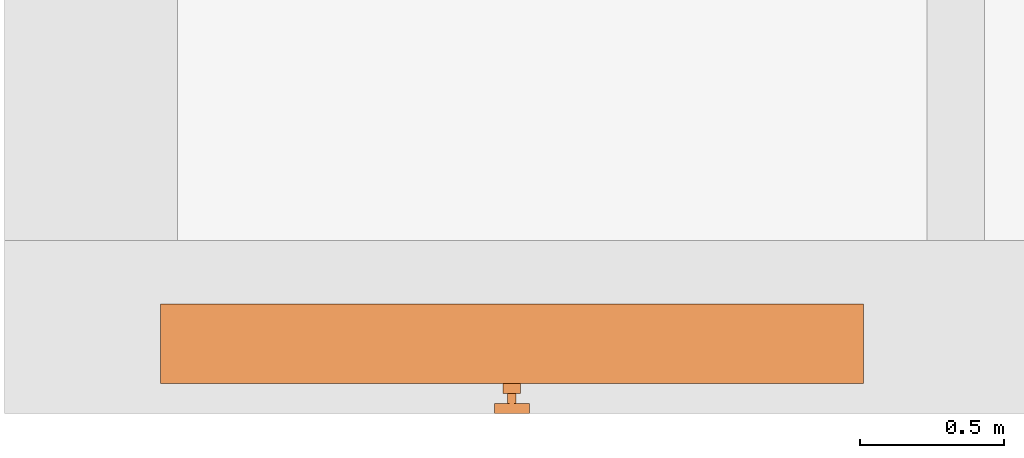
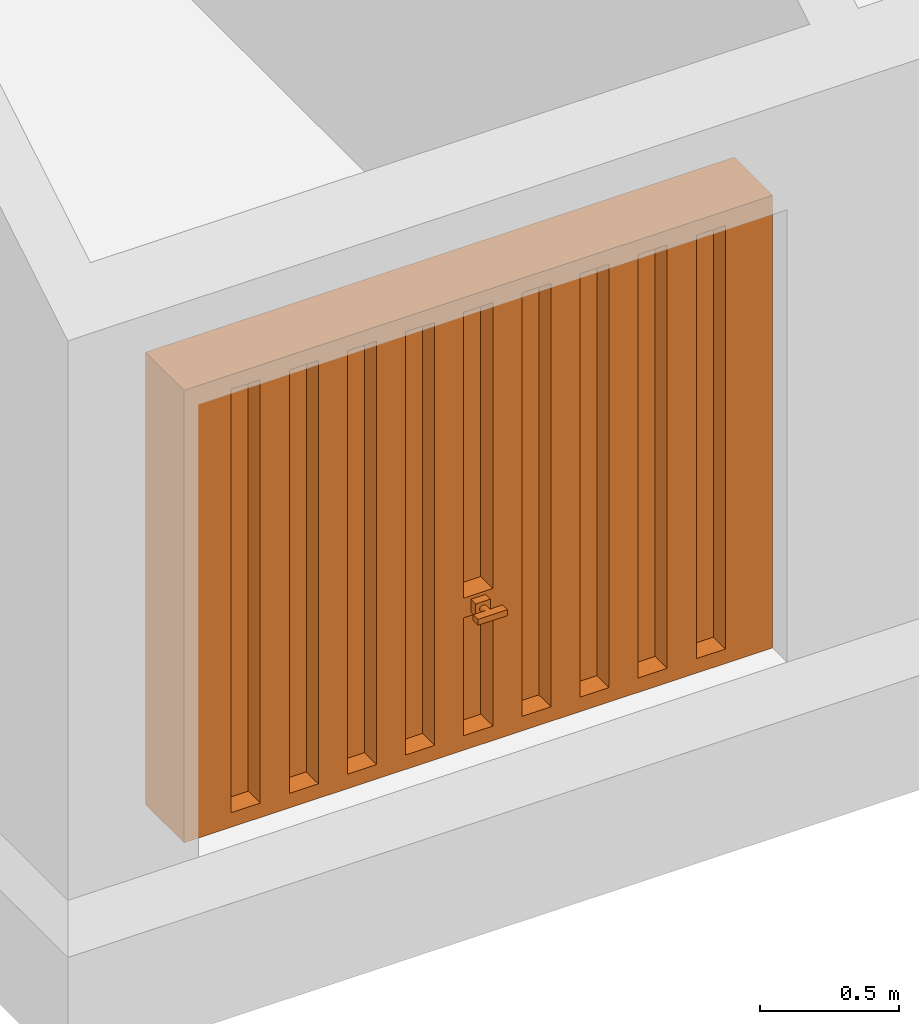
# One storey, part 4 of 6: 1 proxy.
"""IFC2X3 building model written with IfcOpenShell, lengths in millimetres."""

from ifc_helpers import new_model, entity, si_unit, converted_unit, direction, frame, origin, origin_with_axes, place, context, project, spatial, faceted_brep, element, save


model = new_model("IFC2X3")

# Units and contexts
model_context = context("Model", 3, precision=1e-05, world=origin(), true_north=direction((0.0, 1.0, 0.0)))
ifc_project = project(units=[si_unit("LENGTHUNIT", "METRE", prefix="MILLI"), si_unit("AREAUNIT", "SQUARE_METRE"), si_unit("VOLUMEUNIT", "CUBIC_METRE"), converted_unit("PLANEANGLEUNIT", "DEGREE", entity("IfcPlaneAngleMeasure", 0.01745), si_unit("PLANEANGLEUNIT", "RADIAN"), dimensions=[0, 0, 0, 0, 0, 0, 0]), si_unit("SOLIDANGLEUNIT", "STERADIAN"), si_unit("MASSUNIT", "GRAM"), si_unit("TIMEUNIT", "SECOND"), si_unit("THERMODYNAMICTEMPERATUREUNIT", "DEGREE_CELSIUS"), si_unit("LUMINOUSINTENSITYUNIT", "LUMEN")], contexts=[model_context])

# Site, building, storey
site_placement = place(None, origin_with_axes())
site = spatial("IfcSite", under=ifc_project, at=site_placement, Name="Default Site", CompositionType="ELEMENT")
building_placement = place(site_placement, origin_with_axes())
building = spatial("IfcBuilding", under=site, at=building_placement, Name="Default Building", CompositionType="ELEMENT")
storey_placement = place(building_placement, origin_with_axes())
storey = spatial("IfcBuildingStorey", under=building, at=storey_placement, Name="soubassement", CompositionType="ELEMENT", Elevation=0.0)

# Proxy
proxy_placement = place(storey_placement, frame((-3044.264854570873, -20939.03786811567, 7.334057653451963e-06), z_axis=(0.0, 0.0, 1.0), x_axis=(1.0, 0.0, 0.0)))
element("IfcBuildingElementProxy", 1, at=proxy_placement, inside=storey, context=model_context, shape_type="Brep", body=[
    faceted_brep([(1158.544757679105, 259.0909082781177, 579.8760057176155), (1158.544757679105, 345.4545443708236, 579.8760057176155), (1278.917301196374, 345.4545443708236, 579.8760057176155), (1278.929027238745, 259.0909082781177, 579.8760057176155), (1158.544757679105, 345.4545443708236, 63.51268776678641), (1158.544757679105, 259.0909082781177, 63.51268776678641), (1278.940753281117, 259.0909082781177, 63.51268776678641), (1158.544757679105, 345.4545443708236, 665.936555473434), (1158.544757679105, 259.0909082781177, 665.936555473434), (1278.891506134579, 259.0909082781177, 665.936555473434), (1278.891506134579, 345.4545443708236, 665.936555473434), (1278.891506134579, 155.4545449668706, 579.8760029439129), (1278.891506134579, 69.09090887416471, 579.8760029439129), (1158.495510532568, 69.09090887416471, 579.8760029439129), (1158.495510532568, 155.4545449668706, 579.8760029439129), (1278.940753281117, 345.4545443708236, 63.51268776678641), (1278.940753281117, 259.0909082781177, 1917.687292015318), (1278.940753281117, 259.0909082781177, 665.936555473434), (1158.544757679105, 259.0909082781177, 1917.687292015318), (195.3767928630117, 345.4545443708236, 63.51268776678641), (195.3767928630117, 345.4545443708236, 1917.687292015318), (195.3767928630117, 259.0909082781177, 1917.687292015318), (195.3767928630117, 259.0909082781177, 63.51268776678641), (315.7727884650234, 345.4545443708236, 63.51268776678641), (315.7727884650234, 259.0909082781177, 63.51268776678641), (315.7727884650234, 345.4545443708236, 1917.687292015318), (315.7727884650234, 259.0909082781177, 579.8760057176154), (315.7727884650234, 259.0909082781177, 1917.687292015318), (436.1687840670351, 345.4545443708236, 63.51268776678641), (436.1687840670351, 345.4545443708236, 1917.687292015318), (436.1687840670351, 259.0909082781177, 1917.687292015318), (436.1687840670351, 259.0909082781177, 579.8760057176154), (436.1687840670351, 259.0909082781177, 63.51268776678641), (556.5647796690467, 345.4545443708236, 63.51268776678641), (556.5647796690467, 259.0909082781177, 63.51268776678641), (556.5647796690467, 345.4545443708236, 1917.687292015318), (556.5647796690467, 259.0909082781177, 579.8760057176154), (556.5647796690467, 259.0909082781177, 1917.687292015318), (676.9607752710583, 345.4545443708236, 63.51268776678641), (676.9607752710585, 345.4545443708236, 1917.687292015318), (676.9607752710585, 259.0909082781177, 1917.687292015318), (676.9607752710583, 259.0909082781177, 579.8760057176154), (676.9607752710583, 259.0909082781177, 63.51268776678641), (797.3567708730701, 345.4545443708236, 63.51268776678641), (797.3567708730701, 259.0909082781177, 63.51268776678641), (797.3567708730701, 345.4545443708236, 1917.687292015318), (797.3567708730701, 259.0909082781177, 579.8760057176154), (797.3567708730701, 259.0909082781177, 1917.687292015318), (917.7527664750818, 345.4545443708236, 63.51268776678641), (917.7527664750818, 345.4545443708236, 1917.687292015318), (917.7527664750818, 259.0909082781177, 1917.687292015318), (917.7527664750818, 259.0909082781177, 579.8760057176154), (917.7527664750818, 259.0909082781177, 63.51268776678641), (1038.148762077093, 345.4545443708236, 63.51268776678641), (1038.148762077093, 259.0909082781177, 63.51268776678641), (1038.148762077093, 345.4545443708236, 1917.687292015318), (1038.148762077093, 259.0909082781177, 579.8760057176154), (1038.148762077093, 259.0909082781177, 1917.687292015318), (1158.544757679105, 345.4545443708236, 1917.687292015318), (1278.940753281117, 345.4545443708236, 1917.687292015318), (1399.336748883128, 345.4545443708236, 63.51268776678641), (1399.336748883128, 345.4545443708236, 1917.687292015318), (1399.336748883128, 259.0909082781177, 1917.687292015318), (1399.336748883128, 259.0909082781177, 665.936555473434), (1399.336748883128, 259.0909082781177, 63.51268776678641), (1519.73274448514, 345.4545443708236, 63.51268776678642), (1519.73274448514, 259.0909082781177, 63.51268776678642), (1519.73274448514, 345.4545443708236, 1917.687292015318), (1519.73274448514, 259.0909082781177, 1917.687292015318), (1640.128740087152, 345.4545443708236, 63.51268776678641), (1640.128740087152, 345.4545443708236, 1917.687292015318), (1640.128740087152, 259.0909082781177, 1917.687292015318), (1640.128740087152, 259.0909082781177, 63.51268776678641), (1760.524735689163, 345.4545443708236, 63.51268776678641), (1760.524735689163, 259.0909082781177, 63.51268776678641), (1760.524735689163, 345.4545443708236, 1917.687292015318), (1760.524735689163, 259.0909082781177, 1917.687292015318), (1880.920731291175, 345.4545443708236, 63.51268776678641), (1880.920731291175, 345.4545443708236, 1917.687292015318), (1880.920731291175, 259.0909082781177, 1917.687292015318), (1880.920731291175, 259.0909082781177, 63.51268776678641), (2001.316726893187, 345.4545443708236, 63.51268776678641), (2001.316726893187, 259.0909082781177, 63.51268776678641), (2001.316726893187, 345.4545443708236, 1917.687292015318), (2001.316726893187, 259.0909082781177, 1917.687292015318), (2121.712722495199, 345.4545443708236, 63.51268776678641), (2121.712722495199, 345.4545443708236, 1917.687292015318), (2121.712722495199, 259.0909082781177, 1917.687292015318), (2121.712722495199, 259.0909082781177, 63.51268776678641), (2242.10871809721, 345.4545443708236, 63.51268776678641), (2242.10871809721, 259.0909082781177, 63.51268776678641), (2242.10871809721, 345.4545443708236, 1917.687292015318), (2242.10871809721, 259.0909082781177, 1917.687292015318), (2363.41911366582, 345.4545443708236, 63.51268776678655), (2363.41911366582, 345.4545443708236, 1917.687292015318), (74.98079726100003, 345.4545443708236, 1917.687292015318), (74.98079726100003, 345.4545443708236, 63.51268776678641), (1278.891506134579, 69.09090887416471, 594.9365996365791), (1278.891506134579, 69.09090887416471, 665.936555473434), (1158.495510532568, 69.09090887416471, 665.936555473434), (1249.173507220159, 69.09090887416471, 650.8759587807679), (1249.173507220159, 69.09090887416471, 594.9365996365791), (1188.213509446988, 69.09090887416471, 594.9365996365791), (1188.213509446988, 69.09090887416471, 650.8759587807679), (1211.186911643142, -34.54545443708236, 624.6100296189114), (1210.922107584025, -34.54545443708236, 622.9062792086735), (1211.186911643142, -34.54545443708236, 621.2025287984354), (1211.963277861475, -34.54545443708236, 619.6148861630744), (1213.198298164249, -34.54545443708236, 618.2515465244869), (1214.807807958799, -34.54545443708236, 617.205419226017), (1216.682121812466, -34.54545443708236, 616.5477961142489), (1218.693508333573, -34.54545443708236, 616.3234931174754), (1220.704894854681, -34.54545443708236, 616.5477961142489), (1222.579208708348, -34.54545443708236, 617.205419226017), (1224.188718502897, -34.54545443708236, 618.2515465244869), (1225.423738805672, -34.54545443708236, 619.6148861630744), (1226.200105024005, -34.54545443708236, 621.2025287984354), (1226.464909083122, -34.54545443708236, 622.9062792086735), (1226.200105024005, -34.54545443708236, 624.6100296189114), (1225.423738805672, -34.54545443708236, 626.1976722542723), (1224.188718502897, -34.54545443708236, 627.56101189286), (1222.579208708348, -34.54545443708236, 628.6071391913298), (1220.704894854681, -34.54545443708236, 629.2647623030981), (1218.693508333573, -34.54545443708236, 629.4890652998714), (1216.682121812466, -34.54545443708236, 629.2647623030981), (1214.807807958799, -34.54545443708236, 628.6071391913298), (1213.198298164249, -34.54545443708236, 627.56101189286), (1211.963277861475, -34.54545443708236, 626.1976722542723), (1214.749106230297, 0.0, 610.4370626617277), (1214.749106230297, 34.54545443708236, 610.4370626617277), (1218.693508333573, 34.54545443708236, 609.9971963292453), (1218.693508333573, 0.0, 609.9971963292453), (1211.073508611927, 0.0, 611.7266854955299), (1211.073508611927, 34.54545443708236, 611.7266854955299), (1207.917201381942, 0.0, 613.7781791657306), (1207.917201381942, 34.54545443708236, 613.7781791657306), (1205.495281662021, 0.0, 616.4517377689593), (1205.495281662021, 34.54545443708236, 616.4517377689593), (1203.972799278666, 0.0, 619.5651627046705), (1203.972799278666, 34.54545443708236, 619.5651627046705), (1203.453508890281, 0.0, 622.9062792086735), (1203.453508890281, 34.54545443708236, 622.9062792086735), (1203.972799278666, 0.0, 626.2473957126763), (1203.972799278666, 34.54545443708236, 626.2473957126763), (1205.495281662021, 0.0, 629.3608206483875), (1205.495281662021, 34.54545443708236, 629.3608206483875), (1207.917201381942, 0.0, 632.0343792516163), (1207.917201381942, 34.54545443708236, 632.0343792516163), (1218.693508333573, 0.0, 635.8153620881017), (1218.693508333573, 34.54545443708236, 635.8153620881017), (1214.749106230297, 34.54545443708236, 635.3754957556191), (1214.749106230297, 0.0, 635.3754957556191), (1211.073508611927, 34.54545443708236, 634.085872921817), (1211.073508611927, 0.0, 634.085872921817), (1207.917201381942, -34.54545443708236, 632.0343792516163), (1211.073508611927, -34.54545443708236, 634.085872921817), (1222.185954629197, 0.0, 635.4258963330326), (1222.637910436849, 0.0, 635.3754957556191), (1226.31350805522, 0.0, 634.0858729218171), (1229.469815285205, 0.0, 632.0343792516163), (1231.891735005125, 0.0, 629.3608206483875), (1233.414217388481, 0.0, 626.2473957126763), (1233.933507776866, 0.0, 622.9062792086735), (1233.414217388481, 0.0, 619.5651627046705), (1231.891735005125, 0.0, 616.4517377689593), (1229.469815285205, 0.0, 613.7781791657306), (1226.31350805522, 0.0, 611.7266854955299), (1222.637910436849, 0.0, 610.4370626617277), (1222.637910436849, 34.54545443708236, 635.3754957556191), (1226.31350805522, 34.54545443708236, 634.0858729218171), (1229.469815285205, 34.54545443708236, 632.0343792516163), (1231.891735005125, 34.54545443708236, 629.3608206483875), (1233.414217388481, 34.54545443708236, 626.2473957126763), (1233.933507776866, 34.54545443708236, 622.9062792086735), (1233.414217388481, 34.54545443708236, 619.5651627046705), (1231.891735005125, 34.54545443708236, 616.4517377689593), (1229.469815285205, 34.54545443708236, 613.7781791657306), (1226.31350805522, 34.54545443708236, 611.7266854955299), (1222.637910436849, 34.54545443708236, 610.4370626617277), (1222.637910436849, -34.54545443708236, 635.3754957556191), (1226.31350805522, -34.54545443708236, 634.0858729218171), (1229.469815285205, -34.54545443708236, 632.0343792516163), (1231.891735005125, -34.54545443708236, 629.3608206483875), (1233.414217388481, -34.54545443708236, 626.2473957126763), (1233.933507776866, -34.54545443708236, 622.9062792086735), (1233.414217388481, -34.54545443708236, 619.5651627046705), (1231.891735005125, -34.54545443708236, 616.4517377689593), (1229.469815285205, -34.54545443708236, 613.7781791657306), (1226.31350805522, -34.54545443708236, 611.7266854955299), (1222.637910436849, -34.54545443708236, 610.4370626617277), (1218.693508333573, -34.54545443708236, 609.9971963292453), (1218.693508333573, -34.54545443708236, 635.8153620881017), (1222.185954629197, -34.54545443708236, 635.4258963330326), (1279.653506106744, -34.54545443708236, 609.9971963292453), (1279.653506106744, -34.54545443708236, 635.8153620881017), (1214.749106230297, -34.54545443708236, 635.3754957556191), (1205.495281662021, -34.54545443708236, 629.3608206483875), (1203.972799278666, -34.54545443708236, 626.2473957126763), (1203.453508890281, -34.54545443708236, 622.9062792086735), (1203.972799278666, -34.54545443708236, 619.5651627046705), (1205.495281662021, -34.54545443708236, 616.4517377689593), (1207.917201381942, -34.54545443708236, 613.7781791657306), (1211.073508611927, -34.54545443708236, 611.7266854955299), (1214.749106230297, -34.54545443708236, 610.4370626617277), (1228.365546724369, 0.0, 635.4677763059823), (1279.653506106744, 0.0, 635.8153620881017), (1157.733510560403, 0.0, 635.8153620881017), (1157.733510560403, -34.54545443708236, 635.8153620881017), (1279.653506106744, 0.0, 609.9971963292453), (1157.733510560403, -34.54545443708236, 609.9971963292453), (1157.733510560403, 0.0, 609.9971963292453), (1188.213509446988, 34.54545443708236, 594.9365996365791), (1188.213509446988, 34.54545443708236, 650.8759587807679), (1249.173507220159, 34.54545443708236, 650.8759587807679), (1249.173507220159, 34.54545443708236, 594.9365996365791), (1158.495510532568, 155.4545449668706, 665.936555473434), (1158.495510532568, 69.09090887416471, 1917.687292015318), (1158.495510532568, 155.4545449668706, 881.0879367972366), (1158.495510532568, 155.4545449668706, 1912.351537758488), (1158.495510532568, 155.4545449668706, 1917.687292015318), (1278.891506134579, 155.4545449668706, 665.936555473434), (1278.891506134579, 69.09090887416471, 1917.687292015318), (1278.891506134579, 155.4545449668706, 1917.687292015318), (1038.099514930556, 155.4545449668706, 881.0879367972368), (1038.099514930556, 155.4545449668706, 665.936555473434), (1056.639961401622, 155.4545449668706, 665.936555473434), (1056.639961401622, 155.4545449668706, 881.0879367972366), (1137.919958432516, 155.4545449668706, 881.0879367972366), (1137.919958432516, 155.4545449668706, 665.936555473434), (1137.919958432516, 155.4545449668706, 579.8760029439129), (1056.639961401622, 155.4545449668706, 579.8760029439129), (1038.099514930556, 155.4545449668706, 579.8760029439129), (1038.099514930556, 155.4545449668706, 1912.351537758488), (1056.639961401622, 155.4545449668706, 1912.351537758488), (1137.919958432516, 155.4545449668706, 1912.351537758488), (2121.663475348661, 69.09090887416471, 1917.687292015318), (2121.663475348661, 69.09090887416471, 63.51268776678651), (2121.663475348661, 155.4545449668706, 63.51268776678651), (2121.663475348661, 155.4545449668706, 1917.687292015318), (2242.059470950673, 69.09090887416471, 1917.687292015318), (2242.059470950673, 155.4545449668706, 1917.687292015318), (2242.059470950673, 69.09090887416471, 63.51268776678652), (2242.059470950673, 155.4545449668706, 63.51268776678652), (1880.871484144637, 69.09090887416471, 1917.687292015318), (1880.871484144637, 69.09090887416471, 63.5126877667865), (1880.871484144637, 155.4545449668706, 63.5126877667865), (1880.871484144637, 155.4545449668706, 1917.687292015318), (2001.267479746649, 69.09090887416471, 1917.687292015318), (2001.267479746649, 155.4545449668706, 1917.687292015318), (2001.267479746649, 69.09090887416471, 63.5126877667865), (2001.267479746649, 155.4545449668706, 63.5126877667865), (1640.079492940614, 69.09090887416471, 1917.687292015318), (1640.079492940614, 69.09090887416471, 63.51268776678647), (1640.079492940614, 155.4545449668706, 63.51268776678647), (1640.079492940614, 155.4545449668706, 1912.351537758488), (1640.079492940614, 155.4545449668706, 1917.687292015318), (1760.475488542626, 69.09090887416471, 1917.687292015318), (1760.475488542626, 155.4545449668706, 1917.687292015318), (1760.475488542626, 69.09090887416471, 63.51268776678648), (1760.475488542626, 155.4545449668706, 63.51268776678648), (1706.879937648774, 155.4545449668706, 63.51268776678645), (1399.287501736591, 69.09090887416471, 1917.687292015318), (1399.287501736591, 69.09090887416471, 63.51268776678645), (1399.287501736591, 155.4545449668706, 63.51268776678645), (1399.287501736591, 155.4545449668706, 1917.687292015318), (1519.683497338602, 69.09090887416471, 1917.687292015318), (1519.683497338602, 155.4545449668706, 1917.687292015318), (1519.683497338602, 69.09090887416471, 63.51268776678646), (1519.683497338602, 155.4545449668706, 1912.351537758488), (1519.683497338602, 155.4545449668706, 63.51268776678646), (1463.039946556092, 155.4545449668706, 63.51268776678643), (1158.495510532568, 155.4545449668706, 63.51268776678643), (1158.495510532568, 69.09090887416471, 63.51268776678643), (1278.891506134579, 69.09090887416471, 63.51268776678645), (1278.891506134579, 155.4545449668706, 63.51268776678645), (1219.19995546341, 155.4545449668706, 63.51268776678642), (1056.639961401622, 155.4545449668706, 0.0), (1038.099514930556, 155.4545449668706, 63.51268776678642), (975.3599643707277, 155.4545449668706, 63.51268776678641), (975.3599643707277, 155.4545449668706, 0.0), (917.7527664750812, 69.09090887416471, 1917.687292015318), (917.7527664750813, 69.09090887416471, 63.51268776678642), (917.7527664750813, 155.4545449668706, 63.51268776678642), (917.7527664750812, 155.4545449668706, 1917.687292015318), (1038.099514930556, 69.09090887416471, 1914.770687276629), (1038.099514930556, 155.4545449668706, 1914.770687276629), (1038.099514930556, 69.09090887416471, 63.51268776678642), (731.5199732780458, 155.4545449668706, 0.0), (731.5199732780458, 155.4545449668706, 63.51268776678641), (676.960775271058, 155.4545449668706, 63.51268776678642), (676.9607752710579, 155.4545449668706, 1912.351537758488), (650.2399762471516, 155.4545449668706, 1912.351537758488), (650.2399762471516, 155.4545449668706, 0.0), (676.9607752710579, 69.09090887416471, 1917.687292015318), (676.960775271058, 69.09090887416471, 63.51268776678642), (676.9607752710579, 155.4545449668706, 1917.687292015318), (797.3567708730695, 69.09090887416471, 1917.687292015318), (797.3567708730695, 155.4545449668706, 1917.687292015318), (797.3567708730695, 69.09090887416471, 63.51268776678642), (797.3567708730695, 155.4545449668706, 63.51268776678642), (568.9599792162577, 155.4545449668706, 1912.351537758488), (556.5647796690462, 155.4545449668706, 1912.351537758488), (556.5647796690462, 155.4545449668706, 63.51268776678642), (487.6799821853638, 155.4545449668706, 63.51268776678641), (487.6799821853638, 155.4545449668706, 0.0), (568.9599792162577, 155.4545449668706, 0.0), (436.1687840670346, 69.09090887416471, 1917.687292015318), (436.1687840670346, 69.09090887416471, 63.51268776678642), (436.1687840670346, 155.4545449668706, 63.51268776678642), (436.1687840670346, 155.4545449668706, 1917.687292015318), (556.5647796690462, 69.09090887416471, 1917.687292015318), (556.5647796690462, 155.4545449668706, 1917.687292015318), (556.5647796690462, 69.09090887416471, 63.51268776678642), (243.8399910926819, 155.4545449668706, 0.0), (243.8399910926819, 155.4545449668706, 63.51268776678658), (195.3767928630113, 155.4545449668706, 63.51268776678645), (195.3767928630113, 155.4545449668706, 1912.351537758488), (162.5599940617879, 155.4545449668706, 1912.351537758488), (162.5599940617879, 155.4545449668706, 0.0), (195.3767928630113, 69.09090887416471, 1917.687292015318), (195.3767928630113, 69.09090887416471, 63.51268776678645), (195.3767928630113, 155.4545449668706, 1917.687292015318), (315.772788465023, 69.09090887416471, 1917.687292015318), (315.772788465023, 155.4545449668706, 1917.687292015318), (315.772788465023, 69.09090887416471, 63.51268776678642), (315.772788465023, 155.4545449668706, 63.51268776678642), (2363.41911366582, 69.09090887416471, 1917.687292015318), (2363.41911366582, 69.09090887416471, 63.51268776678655), (74.98079726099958, 69.09090887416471, 63.51268776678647), (74.9807972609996, 69.09090887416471, 1917.687292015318), (2438.399910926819, 69.09090887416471, 1981.199979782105), (0.0, 69.09090887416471, 1981.199979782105), (0.0, 69.09090887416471, 0.0), (162.5599940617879, 69.09090887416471, 0.0), (243.8399910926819, 69.09090887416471, 0.0), (325.1199881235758, 69.09090887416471, 0.0), (406.3999851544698, 69.09090887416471, 0.0), (487.6799821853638, 69.09090887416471, 0.0), (568.9599792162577, 69.09090887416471, 0.0), (650.2399762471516, 69.09090887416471, 0.0), (731.5199732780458, 69.09090887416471, 0.0), (812.7999703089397, 69.09090887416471, 0.0), (894.0799673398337, 69.09090887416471, 0.0), (975.3599643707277, 69.09090887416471, 0.0), (1056.639961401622, 69.09090887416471, 0.0), (1137.919958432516, 69.09090887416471, 0.0), (1219.19995546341, 69.09090887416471, 0.0), (1300.479952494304, 69.09090887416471, 0.0), (1381.759949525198, 69.09090887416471, 0.0), (1463.039946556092, 69.09090887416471, 0.0), (1544.319943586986, 69.09090887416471, 0.0), (1625.59994061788, 69.09090887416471, 0.0), (1706.879937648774, 69.09090887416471, 0.0), (2438.399910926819, 69.09090887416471, 0.0), (1706.879937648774, 155.4545449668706, 0.0), (1625.59994061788, 155.4545449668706, 1912.351537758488), (1625.59994061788, 155.4545449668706, 0.0), (1300.479952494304, 155.4545449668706, 0.0), (1381.759949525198, 155.4545449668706, 0.0), (1381.759949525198, 155.4545449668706, 1912.351537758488), (1300.479952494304, 155.4545449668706, 1912.351537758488), (0.0, 345.4545443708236, 0.0), (2438.399910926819, 345.4545443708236, 0.0), (1544.319943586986, 155.4545449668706, 0.0), (1463.039946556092, 155.4545449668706, 0.0), (1219.19995546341, 155.4545449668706, 0.0), (1137.919958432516, 155.4545449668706, 0.0), (894.0799673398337, 155.4545449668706, 0.0), (812.7999703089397, 155.4545449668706, 0.0), (406.3999851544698, 155.4545449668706, 0.0), (325.1199881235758, 155.4545449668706, 0.0), (406.3999851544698, 155.4545449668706, 1912.351537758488), (325.1199881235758, 155.4545449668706, 1912.351537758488), (325.1199881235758, 155.4545449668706, 2.220851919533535), (1544.319943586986, 155.4545449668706, 1912.351537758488), (894.0799673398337, 155.4545449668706, 1912.351537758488), (812.7999703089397, 155.4545449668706, 1912.351537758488), (325.1199881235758, 69.09090887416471, 2.220851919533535), (0.0, 345.4545443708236, 1981.199979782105), (2438.399910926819, 345.4545443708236, 1981.199979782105)], [[[0, 1, 2, 3]], [[4, 1, 0, 5]], [[5, 0, 3, 6]], [[7, 8, 9, 10]], [[8, 0, 1, 7]], [[11, 12, 13, 14]], [[6, 3, 2, 15]], [[10, 2, 1, 7]], [[16, 17, 9, 8, 18]], [[19, 20, 21, 22]], [[23, 19, 22, 24]], [[25, 23, 24, 26, 27]], [[20, 25, 27, 21]], [[27, 26, 24, 22, 21]], [[28, 29, 30, 31, 32]], [[33, 28, 32, 34]], [[35, 33, 34, 36, 37]], [[29, 35, 37, 30]], [[37, 36, 34, 32, 31, 30]], [[38, 39, 40, 41, 42]], [[43, 38, 42, 44]], [[45, 43, 44, 46, 47]], [[39, 45, 47, 40]], [[47, 46, 44, 42, 41, 40]], [[48, 49, 50, 51, 52]], [[53, 48, 52, 54]], [[55, 53, 54, 56, 57]], [[49, 55, 57, 50]], [[57, 56, 54, 52, 51, 50]], [[18, 8, 7, 58]], [[15, 4, 5, 6]], [[59, 2, 3, 17, 16]], [[58, 59, 16, 18]], [[17, 3, 0, 8, 9]], [[60, 61, 62, 63, 64]], [[65, 60, 64, 66]], [[67, 65, 66, 68]], [[61, 67, 68, 62]], [[62, 68, 66, 64, 63]], [[69, 70, 71, 72]], [[73, 69, 72, 74]], [[75, 73, 74, 76]], [[70, 75, 76, 71]], [[71, 76, 74, 72]], [[77, 78, 79, 80]], [[81, 77, 80, 82]], [[83, 81, 82, 84]], [[78, 83, 84, 79]], [[79, 84, 82, 80]], [[85, 86, 87, 88]], [[83, 86, 85, 81]], [[89, 85, 88, 90]], [[91, 89, 90, 92]], [[86, 91, 92, 87]], [[87, 92, 90, 88]], [[93, 89, 91, 94]], [[75, 78, 77, 73]], [[67, 70, 69, 65]], [[59, 61, 60, 15, 2]], [[55, 58, 7, 1, 4, 53]], [[45, 49, 48, 43]], [[35, 39, 38, 33]], [[25, 29, 28, 23]], [[95, 20, 19, 96]], [[12, 97, 98, 99, 13], [100, 101, 102, 103]], [[14, 11, 12, 13]], [[104, 105, 106, 107, 108, 109, 110, 111, 112, 113, 114, 115, 116, 117, 118, 119, 120, 121, 122, 123, 124, 125, 126, 127]], [[128, 129, 130, 131]], [[132, 133, 129, 128]], [[134, 135, 133, 132]], [[136, 137, 135, 134]], [[138, 139, 137, 136]], [[140, 141, 139, 138]], [[142, 143, 141, 140]], [[144, 145, 143, 142]], [[146, 147, 145, 144]], [[148, 149, 150, 151]], [[151, 150, 152, 153]], [[154, 155, 153, 146]], [[153, 152, 147, 146]], [[151, 148, 156, 157, 158, 159, 160, 161, 162, 163, 164, 165, 166, 167, 131, 128, 132, 134, 136, 138, 140, 142, 144, 146, 153]], [[168, 149, 148, 156, 157]], [[158, 169, 168, 157]], [[159, 170, 169, 158]], [[160, 171, 170, 159]], [[161, 172, 171, 160]], [[162, 173, 172, 161]], [[163, 174, 173, 162]], [[164, 175, 174, 163]], [[165, 176, 175, 164]], [[166, 177, 176, 165]], [[167, 178, 177, 166]], [[131, 130, 178, 167]], [[168, 149, 150, 152, 147, 145, 143, 141, 139, 137, 135, 133, 129, 130, 178, 177, 176, 175, 174, 173, 172, 171, 170, 169]], [[179, 180, 158, 157]], [[180, 181, 159, 158]], [[181, 182, 160, 159]], [[182, 183, 161, 160]], [[183, 184, 162, 161]], [[184, 185, 163, 162]], [[185, 186, 164, 163]], [[186, 187, 165, 164]], [[187, 188, 166, 165]], [[188, 189, 167, 166]], [[189, 190, 131, 167]], [[191, 192, 179, 180, 181, 182, 183, 184, 185, 186, 187, 188, 189, 190, 193, 194]], [[155, 195, 151, 153]], [[196, 154, 146, 144]], [[197, 196, 144, 142]], [[198, 197, 142, 140]], [[199, 198, 140, 138]], [[200, 199, 138, 136]], [[201, 200, 136, 134]], [[202, 201, 134, 132]], [[203, 202, 132, 128]], [[190, 203, 128, 131]], [[185, 184, 183, 182, 181, 180, 179, 192, 191, 195, 155, 154, 196, 197, 198, 199, 200, 201, 202, 203, 190, 189, 188, 187, 186], [118, 117, 116, 115, 114, 113, 112, 111, 110, 109, 108, 107, 106, 105, 104, 127, 126, 125, 124, 123, 122, 121, 120, 119]], [[204, 156, 148]], [[205, 148, 204]], [[148, 206, 207, 191, 194, 205]], [[190, 193, 208, 131]], [[193, 194, 205, 208]], [[208, 205, 204, 156, 157, 158, 159, 160, 161, 162, 163, 164, 165, 166, 167, 131]], [[209, 207, 206, 210]], [[190, 209, 210, 131]], [[131, 210, 206, 148, 151, 153, 146, 144, 142, 140, 138, 136, 134, 132, 128]], [[209, 190, 203, 202, 201, 200, 199, 198, 197, 196, 154, 155, 195, 191, 207]], [[103, 102, 211, 212]], [[100, 103, 212, 213]], [[101, 100, 213, 214]], [[102, 101, 214, 211]], [[211, 214, 213, 212], [178, 130, 129, 133, 135, 137, 139, 141, 143, 145, 147, 152, 150, 149, 168, 169, 170, 171, 172, 173, 174, 175, 176, 177]], [[99, 13, 14, 215]], [[216, 99, 215, 217, 218, 219]], [[220, 98, 221, 222]], [[220, 215, 99, 98]], [[217, 215, 220, 222, 219, 218]], [[223, 224, 225, 226]], [[227, 228, 215, 217]], [[226, 225, 228, 227]], [[229, 228, 225, 230]], [[14, 215, 228, 229]], [[230, 225, 224, 231]], [[232, 223, 226, 233]], [[234, 227, 217, 218]], [[235, 236, 237, 238]], [[239, 235, 238, 240]], [[241, 239, 240, 242]], [[236, 241, 242, 237]], [[237, 242, 240, 238]], [[243, 244, 245, 246]], [[247, 243, 246, 248]], [[249, 247, 248, 250]], [[244, 249, 250, 245]], [[245, 250, 248, 246]], [[251, 252, 253, 254, 255]], [[256, 251, 255, 257]], [[258, 256, 257, 259]], [[252, 258, 259, 260, 253]], [[253, 260, 259, 257, 255, 254]], [[261, 262, 263, 264]], [[265, 261, 264, 266]], [[267, 265, 266, 268, 269]], [[262, 267, 269, 270, 263]], [[269, 268, 266, 264, 263, 270]], [[271, 14, 13, 272]], [[221, 216, 219, 222]], [[273, 12, 11, 274]], [[272, 273, 274, 275, 271]], [[274, 11, 14, 271, 275]], [[258, 244, 243, 256]], [[276, 230, 231, 277, 278, 279]], [[280, 281, 282, 283]], [[284, 280, 283, 285]], [[286, 284, 285, 232, 223, 224, 231, 277]], [[281, 286, 277, 278, 282]], [[223, 232, 285, 283, 282, 278, 277, 231, 224]], [[287, 288, 289, 290, 291, 292]], [[293, 294, 289, 290, 295]], [[296, 293, 295, 297]], [[298, 296, 297, 299]], [[294, 298, 299, 288, 289]], [[289, 288, 299, 297, 295, 290]], [[300, 301, 302, 303, 304, 305]], [[306, 307, 308, 309]], [[310, 306, 309, 311]], [[312, 310, 311, 301, 302]], [[307, 312, 302, 303, 308]], [[302, 301, 311, 309, 308, 303]], [[313, 314, 315, 316, 317, 318]], [[319, 320, 315, 316, 321]], [[322, 319, 321, 323]], [[324, 322, 323, 325]], [[320, 324, 325, 314, 315]], [[315, 314, 325, 323, 321, 316]], [[326, 239, 241, 327]], [[249, 236, 235, 247]], [[267, 252, 251, 265]], [[273, 262, 261, 221, 98, 97, 12]], [[298, 281, 280, 296]], [[312, 294, 293, 310]], [[324, 307, 306, 322]], [[328, 320, 319, 329]], [[286, 272, 13, 99, 216, 280, 284]], [[330, 331, 332, 333, 334, 335, 336, 337, 338, 339, 340, 341, 342, 343, 344, 345, 346, 347, 348, 349, 350, 351, 352, 353], [328, 329, 319, 322, 306, 310, 293, 296, 280, 216, 221, 261, 265, 251, 256, 243, 247, 235, 239, 326, 327, 241, 236, 249, 244, 258, 252, 267, 262, 273, 272, 286, 281, 298, 294, 312, 307, 324, 320]], [[354, 260, 253, 254, 355, 356]], [[357, 358, 359, 360]], [[333, 332, 361, 362, 353, 352, 354, 356, 351, 350, 363, 364, 349, 348, 358, 357, 347, 346, 365, 366, 345, 344, 276, 279, 343, 342, 367, 368, 341, 340, 287, 292, 339, 338, 305, 304, 337, 336, 369, 370, 335, 334, 313, 318]], [[371, 372, 373, 370, 369]], [[346, 345, 366, 365]], [[344, 343, 279, 276]], [[342, 341, 368, 367]], [[340, 339, 292, 287]], [[338, 337, 304, 305]], [[336, 335, 370, 369]], [[334, 333, 318, 313]], [[348, 347, 357, 358]], [[350, 349, 364, 363]], [[352, 351, 356, 354]], [[374, 268, 269, 270, 364, 363]], [[271, 14, 229, 366, 365, 275]], [[368, 367, 375, 376]], [[377, 335, 370, 373]], [[378, 361, 332, 331]], [[378, 331, 330, 379]], [[330, 353, 362, 379]], [[379, 362, 361, 378], [89, 93, 94, 91, 86, 83, 78, 75, 70, 67, 61, 59, 58, 55, 49, 45, 39, 35, 29, 25, 20, 95, 96, 19, 23, 28, 33, 38, 43, 48, 53, 4, 15, 60, 65, 69, 73, 77, 81, 85]]]),
])

save(model, "model.ifc")
